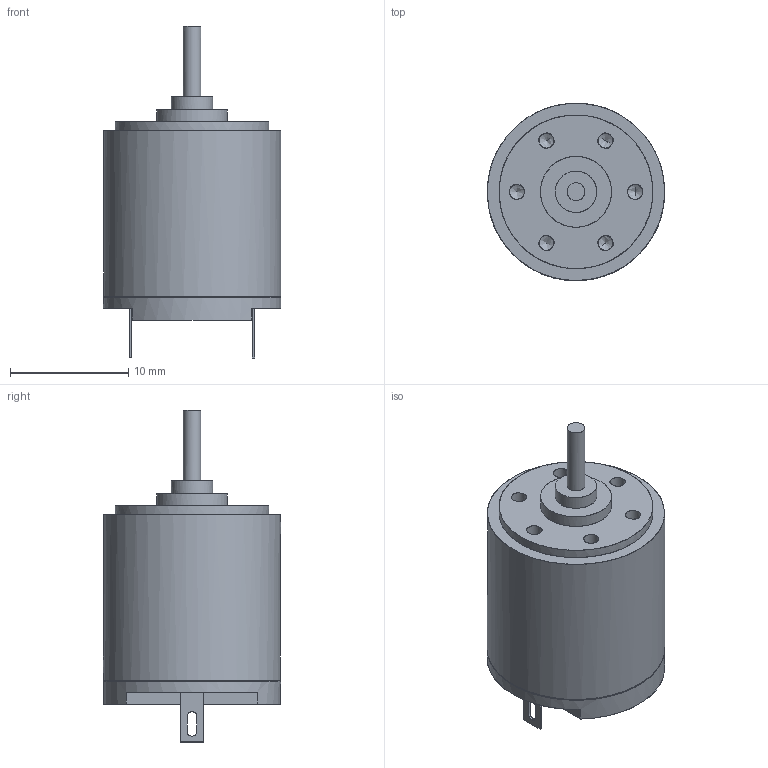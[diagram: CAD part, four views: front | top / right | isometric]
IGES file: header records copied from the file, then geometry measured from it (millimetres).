
Global section: file name: E:\WORK\MISC\DI\MOTORS\2011-11-25\1516TSR.igs; native system: NX V7.5; preprocessor: SIEMENS PLM Software NX 7.5; date: 20111221.225903; units: millimetre
Bounding box: 15 x 15 x 28.1 mm (x, y, z)
Surface area: 1286.7 mm2 (no closed solid volume)
Topology: 0 solids, 0 shells, 48 faces, 406 edges, 440 vertices
Faces by surface type: bspline 48
